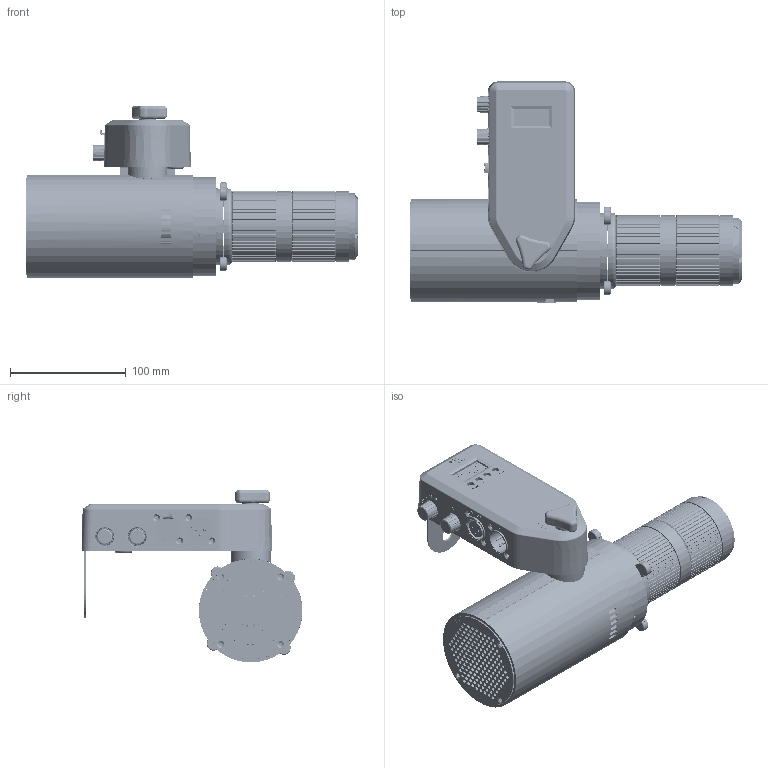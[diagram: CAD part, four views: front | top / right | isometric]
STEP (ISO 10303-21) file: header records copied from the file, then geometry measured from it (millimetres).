
FILE_DESCRIPTION (( 'STEP AP203' ), '1' );
FILE_NAME ('Artisan2540-3D.STEP', '2025-04-09T03:39:55', ( '' ), ( '' ), 'SwSTEP 2.0', 'SolidWorks 2023', '' );
FILE_SCHEMA (( 'CONFIG_CONTROL_DESIGN' ));
Length unit declared in the file: millimetre
Products named in the file (15): gallery50散热器(旧改）^散热器带控制盒_Artisan2540(2)_Artisan2540; 中筒连接件^Artisan2540(2)_Artisan2540; 零件4^Artisan2540(2)_Artisan2540; 滚齿-M6^散热器带控制盒_Artisan2540(2)_Artisan2540; 2540^Artisan2540(2)_Artisan2540; 滚齿-通孔^散热器带控制盒_Artisan2540(2)_Artisan2540; 散热器带控制盒^Artisan2540(2)_Artisan2540; YS-2024-203-PA66+30GF1.005^控制盒_散热器带控制盒_Artisan2540(2)_Artisan2540; Artisan2540-3D; m10x0.75径向锁紧螺母^散热器带控制盒_Artisan2540(2)_Artisan2540; 后面板^Artisan2540(2)_Artisan2540; Artisan2540(2)^Artisan2540; 三角手拧螺母^散热器带控制盒_Artisan2540(2)_Artisan2540; 控制盒连接件A^散热器带控制盒_Artisan2540(2)_Artisan2540; 控制盒^散热器带控制盒_Artisan2540(2)_Artisan2540
Assembly tree (14 placements, depth 5):
  Artisan2540-3D
    Artisan2540(2)^Artisan2540
      散热器带控制盒^Artisan2540(2)_Artisan2540
        控制盒^散热器带控制盒_Artisan2540(2)_Artisan2540
          YS-2024-203-PA66+30GF1.005^控制盒_散热器带控制盒_Artisan2540(2)_Artisan2540
        gallery50散热器(旧改）^散热器带控制盒_Artisan2540(2)_Artisan2540
        控制盒连接件A^散热器带控制盒_Artisan2540(2)_Artisan2540
        滚齿-M6^散热器带控制盒_Artisan2540(2)_Artisan2540
        滚齿-通孔^散热器带控制盒_Artisan2540(2)_Artisan2540
        m10x0.75径向锁紧螺母^散热器带控制盒_Artisan2540(2)_Artisan2540
        三角手拧螺母^散热器带控制盒_Artisan2540(2)_Artisan2540
      零件4^Artisan2540(2)_Artisan2540
      2540^Artisan2540(2)_Artisan2540
      中筒连接件^Artisan2540(2)_Artisan2540
      后面板^Artisan2540(2)_Artisan2540
Bounding box: 286.93 x 190.93 x 148.85 mm (x, y, z)
Volume: 543582 mm3; surface area: 377094.7 mm2
Topology: 40 solids, 40 shells, 4084 faces, 11097 edges, 7222 vertices
Faces by surface type: plane 2281, cylinder 853, bspline 644, cone 180, torus 94, sphere 32
Full cylindrical faces by diameter (mm): 1 x6, 2 x6, 2.3 x6, 2.5 x32, 2.65 x1, 3 x175, 3.2 x34, 3.3 x4, 3.5 x6, 3.76 x2, 4.2 x2, 4.3 x2, 5 x17, 5.5 x8, 6 x3, 6.2 x2, 6.5 x7, 6.6 x8, 7 x1, 8 x4, 10 x3, 12 x5, 13 x3, 15 x1, 15.5 x2, 19.8 x2, 21.8 x2, 22.8 x2, 28.1 x1, 32 x2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
Entity records: 164420 total; most frequent: CARTESIAN_POINT 70118, ORIENTED_EDGE 20742, DIRECTION 16049, EDGE_CURVE 10371, VERTEX_POINT 7011, AXIS2_PLACEMENT_3D 5535, EDGE_LOOP 5260, LINE 4979
